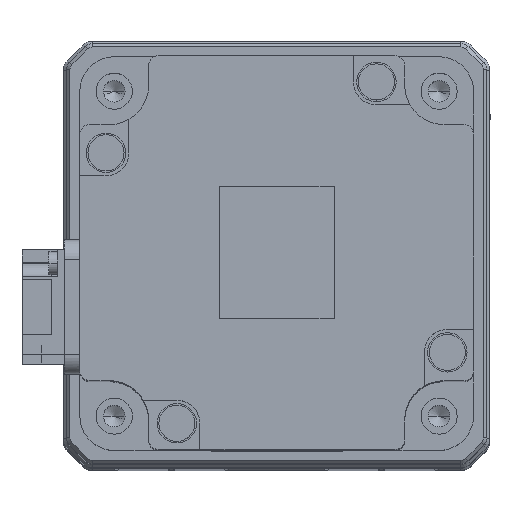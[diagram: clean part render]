
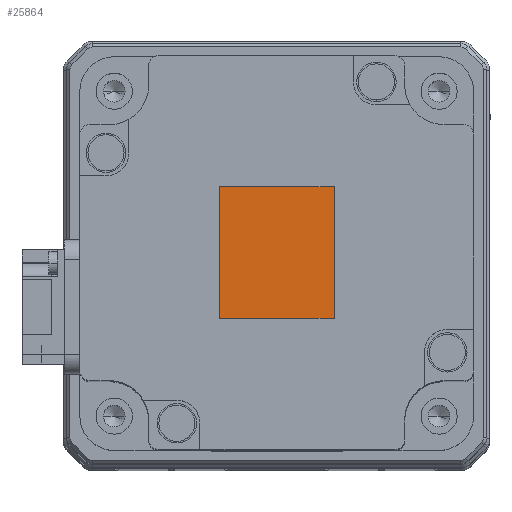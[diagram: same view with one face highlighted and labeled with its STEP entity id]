
A CAD part, top view. The second image highlights one B-rep face of the part: STEP entity #25864.
In plain terms, the highlighted planar face has unit normal (0, 0, 1) as drawn and (0, 0, -1) by its records, which use the part's own axes.
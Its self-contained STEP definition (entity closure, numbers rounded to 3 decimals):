
#160 = LINE ( 'NONE', #19973, #27708 ) ;
#1651 = CARTESIAN_POINT ( 'NONE',  ( 10., -8.75, -98.6 ) ) ;
#3706 = VERTEX_POINT ( 'NONE', #17949 ) ;
#4402 = CARTESIAN_POINT ( 'NONE',  ( 10., 8.75, -98.6 ) ) ;
#4472 = DIRECTION ( 'NONE',  ( 0., 1., 0. ) ) ;
#5623 = CARTESIAN_POINT ( 'NONE',  ( 10., -8.75, -98.6 ) ) ;
#5941 = ORIENTED_EDGE ( 'NONE', *, *, #13014, .T. ) ;
#7534 = FACE_OUTER_BOUND ( 'NONE', #9556, .T. ) ;
#8193 = AXIS2_PLACEMENT_3D ( 'NONE', #21421, #31804, #16321 ) ;
#8395 = ORIENTED_EDGE ( 'NONE', *, *, #31475, .T. ) ;
#9556 = EDGE_LOOP ( 'NONE', ( #5941, #22936, #21984, #8395 ) ) ;
#9573 = VECTOR ( 'NONE', #21122, 1000. ) ;
#11086 = PLANE ( 'NONE',  #8193 ) ;
#11739 = VERTEX_POINT ( 'NONE', #12546 ) ;
#12546 = CARTESIAN_POINT ( 'NONE',  ( -10., 8.75, -98.6 ) ) ;
#12682 = VECTOR ( 'NONE', #31676, 1000. ) ;
#13014 = EDGE_CURVE ( 'NONE', #3706, #11739, #160, .T. ) ;
#14189 = EDGE_CURVE ( 'NONE', #22078, #17637, #17077, .T. ) ;
#16097 = CARTESIAN_POINT ( 'NONE',  ( 10., 8.75, -98.6 ) ) ;
#16321 = DIRECTION ( 'NONE',  ( -1., 0., 0. ) ) ;
#16464 = LINE ( 'NONE', #5623, #9573 ) ;
#17077 = LINE ( 'NONE', #27600, #30058 ) ;
#17637 = VERTEX_POINT ( 'NONE', #1651 ) ;
#17949 = CARTESIAN_POINT ( 'NONE',  ( -10., -8.75, -98.6 ) ) ;
#19973 = CARTESIAN_POINT ( 'NONE',  ( -10., 8.75, -98.6 ) ) ;
#21122 = DIRECTION ( 'NONE',  ( -1., 0., 0. ) ) ;
#21421 = CARTESIAN_POINT ( 'NONE',  ( 10., -8.75, -98.6 ) ) ;
#21984 = ORIENTED_EDGE ( 'NONE', *, *, #14189, .T. ) ;
#22078 = VERTEX_POINT ( 'NONE', #4402 ) ;
#22936 = ORIENTED_EDGE ( 'NONE', *, *, #27582, .T. ) ;
#25028 = DIRECTION ( 'NONE',  ( 0., -1., 0. ) ) ;
#25864 = ADVANCED_FACE ( 'NONE', ( #7534 ), #11086, .T. ) ;
#26477 = LINE ( 'NONE', #16097, #12682 ) ;
#27582 = EDGE_CURVE ( 'NONE', #11739, #22078, #26477, .T. ) ;
#27600 = CARTESIAN_POINT ( 'NONE',  ( 10., 8.75, -98.6 ) ) ;
#27708 = VECTOR ( 'NONE', #4472, 1000. ) ;
#30058 = VECTOR ( 'NONE', #25028, 1000. ) ;
#31475 = EDGE_CURVE ( 'NONE', #17637, #3706, #16464, .T. ) ;
#31676 = DIRECTION ( 'NONE',  ( 1., 0., 0. ) ) ;
#31804 = DIRECTION ( 'NONE',  ( 0., 0., -1. ) ) ;
